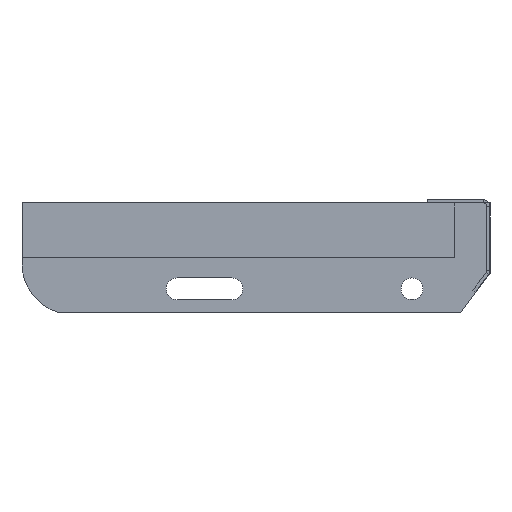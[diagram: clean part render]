
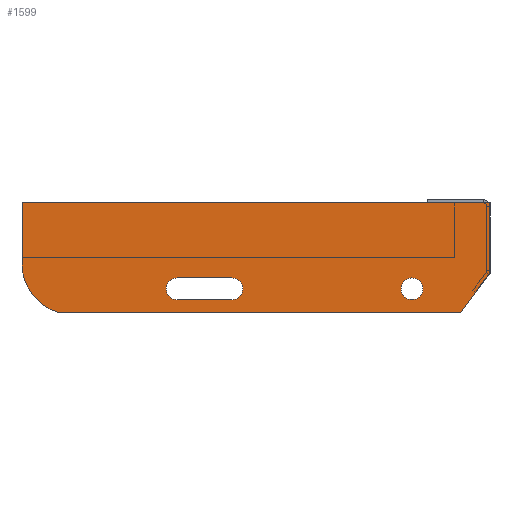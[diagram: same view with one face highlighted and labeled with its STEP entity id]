
A CAD part, left-side view. The second image highlights one B-rep face of the part: STEP entity #1599.
In plain terms, the highlighted planar face has unit normal (-1, 0, 0) as drawn and (0, 0, 1) by its records, which use the part's own axes.
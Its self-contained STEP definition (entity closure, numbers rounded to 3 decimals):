
#3 = CARTESIAN_POINT ( 'NONE',  ( -165.5, -62., 3. ) ) ;
#18 = PLANE ( 'NONE',  #309 ) ;
#52 = ORIENTED_EDGE ( 'NONE', *, *, #1554, .T. ) ;
#60 = FACE_BOUND ( 'NONE', #755, .T. ) ;
#78 = EDGE_CURVE ( 'NONE', #615, #1896, #1427, .T. ) ;
#79 = AXIS2_PLACEMENT_3D ( 'NONE', #2000, #1041, #600 ) ;
#181 = CIRCLE ( 'NONE', #1456, 32.5 ) ;
#185 = AXIS2_PLACEMENT_3D ( 'NONE', #1357, #1516, #250 ) ;
#205 = VERTEX_POINT ( 'NONE', #1966 ) ;
#216 = FACE_BOUND ( 'NONE', #1266, .T. ) ;
#229 = EDGE_CURVE ( 'NONE', #1896, #615, #1358, .T. ) ;
#250 = DIRECTION ( 'NONE',  ( 1., 0., 0. ) ) ;
#257 = ORIENTED_EDGE ( 'NONE', *, *, #1040, .T. ) ;
#277 = VERTEX_POINT ( 'NONE', #773 ) ;
#284 = CARTESIAN_POINT ( 'NONE',  ( -300., -39., 3. ) ) ;
#306 = LINE ( 'NONE', #317, #1688 ) ;
#309 = AXIS2_PLACEMENT_3D ( 'NONE', #517, #1147, #1274 ) ;
#317 = CARTESIAN_POINT ( 'NONE',  ( 0., 0., 3. ) ) ;
#323 = DIRECTION ( 'NONE',  ( 0., 0., 1. ) ) ;
#330 = DIRECTION ( 'NONE',  ( 0.602, 0.799, 0. ) ) ;
#346 = AXIS2_PLACEMENT_3D ( 'NONE', #614, #323, #1577 ) ;
#348 = CIRCLE ( 'NONE', #1300, 7. ) ;
#349 = VECTOR ( 'NONE', #1674, 1000. ) ;
#350 = FACE_OUTER_BOUND ( 'NONE', #1513, .T. ) ;
#404 = EDGE_CURVE ( 'NONE', #924, #503, #641, .T. ) ;
#440 = CARTESIAN_POINT ( 'NONE',  ( -200.5, -55., 3. ) ) ;
#445 = CARTESIAN_POINT ( 'NONE',  ( -200.5, -62., 3. ) ) ;
#466 = EDGE_CURVE ( 'NONE', #503, #277, #651, .T. ) ;
#480 = DIRECTION ( 'NONE',  ( 0., 0., 1. ) ) ;
#503 = VERTEX_POINT ( 'NONE', #1945 ) ;
#511 = LINE ( 'NONE', #1740, #1132 ) ;
#517 = CARTESIAN_POINT ( 'NONE',  ( -267.5, -39., 3. ) ) ;
#581 = ORIENTED_EDGE ( 'NONE', *, *, #466, .F. ) ;
#583 = DIRECTION ( 'NONE',  ( 0., -1., 0. ) ) ;
#600 = DIRECTION ( 'NONE',  ( 1., 0., 0. ) ) ;
#609 = ORIENTED_EDGE ( 'NONE', *, *, #1492, .F. ) ;
#612 = VECTOR ( 'NONE', #1888, 1000. ) ;
#614 = CARTESIAN_POINT ( 'NONE',  ( -165.5, -55., 3. ) ) ;
#615 = VERTEX_POINT ( 'NONE', #1172 ) ;
#641 = CIRCLE ( 'NONE', #346, 7. ) ;
#642 = CARTESIAN_POINT ( 'NONE',  ( -200.5, -48., 3. ) ) ;
#651 = LINE ( 'NONE', #642, #1624 ) ;
#671 = VERTEX_POINT ( 'NONE', #1013 ) ;
#703 = CARTESIAN_POINT ( 'NONE',  ( 0., 0., 3. ) ) ;
#712 = CARTESIAN_POINT ( 'NONE',  ( -300., 0., 3. ) ) ;
#716 = DIRECTION ( 'NONE',  ( 1., 0., 0. ) ) ;
#744 = VERTEX_POINT ( 'NONE', #1333 ) ;
#755 = EDGE_LOOP ( 'NONE', ( #1116, #609, #1482, #581, #948 ) ) ;
#773 = CARTESIAN_POINT ( 'NONE',  ( -200.5, -48., 3. ) ) ;
#824 = VERTEX_POINT ( 'NONE', #445 ) ;
#825 = EDGE_CURVE ( 'NONE', #277, #671, #348, .T. ) ;
#865 = VERTEX_POINT ( 'NONE', #1732 ) ;
#888 = CARTESIAN_POINT ( 'NONE',  ( -200.5, -55., 3. ) ) ;
#924 = VERTEX_POINT ( 'NONE', #3 ) ;
#926 = LINE ( 'NONE', #1561, #1389 ) ;
#936 = DIRECTION ( 'NONE',  ( -1., 0., 0. ) ) ;
#948 = ORIENTED_EDGE ( 'NONE', *, *, #404, .F. ) ;
#968 = VECTOR ( 'NONE', #583, 1000. ) ;
#1004 = EDGE_CURVE ( 'NONE', #824, #924, #1267, .T. ) ;
#1012 = ORIENTED_EDGE ( 'NONE', *, *, #78, .F. ) ;
#1013 = CARTESIAN_POINT ( 'NONE',  ( -207.5, -55., 3. ) ) ;
#1040 = EDGE_CURVE ( 'NONE', #865, #205, #511, .T. ) ;
#1041 = DIRECTION ( 'NONE',  ( 0., 0., 1. ) ) ;
#1045 = CARTESIAN_POINT ( 'NONE',  ( 0., 0., 3. ) ) ;
#1056 = LINE ( 'NONE', #1362, #968 ) ;
#1113 = CARTESIAN_POINT ( 'NONE',  ( -267.5, -39., 3. ) ) ;
#1116 = ORIENTED_EDGE ( 'NONE', *, *, #1004, .F. ) ;
#1132 = VECTOR ( 'NONE', #1761, 1000. ) ;
#1147 = DIRECTION ( 'NONE',  ( 0., 0., 1. ) ) ;
#1156 = DIRECTION ( 'NONE',  ( 1., 0., 0. ) ) ;
#1172 = CARTESIAN_POINT ( 'NONE',  ( -57., -55., 3. ) ) ;
#1241 = VERTEX_POINT ( 'NONE', #703 ) ;
#1242 = CARTESIAN_POINT ( 'NONE',  ( -200.5, -62., 3. ) ) ;
#1266 = EDGE_LOOP ( 'NONE', ( #1012, #1922 ) ) ;
#1267 = LINE ( 'NONE', #1242, #612 ) ;
#1271 = DIRECTION ( 'NONE',  ( -1., 0., 0. ) ) ;
#1274 = DIRECTION ( 'NONE',  ( 1., 0., 0. ) ) ;
#1294 = AXIS2_PLACEMENT_3D ( 'NONE', #440, #480, #1570 ) ;
#1300 = AXIS2_PLACEMENT_3D ( 'NONE', #888, #1644, #716 ) ;
#1332 = ORIENTED_EDGE ( 'NONE', *, *, #1380, .T. ) ;
#1333 = CARTESIAN_POINT ( 'NONE',  ( 0., -45., 3. ) ) ;
#1352 = VERTEX_POINT ( 'NONE', #712 ) ;
#1357 = CARTESIAN_POINT ( 'NONE',  ( -50., -55., 3. ) ) ;
#1358 = CIRCLE ( 'NONE', #79, 7. ) ;
#1362 = CARTESIAN_POINT ( 'NONE',  ( -300., 0., 3. ) ) ;
#1380 = EDGE_CURVE ( 'NONE', #1352, #1948, #1056, .T. ) ;
#1386 = EDGE_CURVE ( 'NONE', #744, #1241, #1821, .T. ) ;
#1389 = VECTOR ( 'NONE', #330, 1000. ) ;
#1408 = ORIENTED_EDGE ( 'NONE', *, *, #1386, .T. ) ;
#1427 = CIRCLE ( 'NONE', #185, 7. ) ;
#1456 = AXIS2_PLACEMENT_3D ( 'NONE', #1113, #1769, #1156 ) ;
#1482 = ORIENTED_EDGE ( 'NONE', *, *, #825, .F. ) ;
#1492 = EDGE_CURVE ( 'NONE', #671, #824, #1908, .T. ) ;
#1513 = EDGE_LOOP ( 'NONE', ( #1408, #52, #1332, #1569, #257, #1866 ) ) ;
#1516 = DIRECTION ( 'NONE',  ( 0., 0., 1. ) ) ;
#1554 = EDGE_CURVE ( 'NONE', #1241, #1352, #306, .T. ) ;
#1556 = EDGE_CURVE ( 'NONE', #205, #744, #926, .T. ) ;
#1561 = CARTESIAN_POINT ( 'NONE',  ( 0., -45., 3. ) ) ;
#1569 = ORIENTED_EDGE ( 'NONE', *, *, #1596, .T. ) ;
#1570 = DIRECTION ( 'NONE',  ( 1., 0., 0. ) ) ;
#1577 = DIRECTION ( 'NONE',  ( 1., 0., 0. ) ) ;
#1596 = EDGE_CURVE ( 'NONE', #1948, #865, #181, .T. ) ;
#1599 = ADVANCED_FACE ( 'NONE', ( #350, #216, #60 ), #18, .T. ) ;
#1624 = VECTOR ( 'NONE', #1271, 1000. ) ;
#1644 = DIRECTION ( 'NONE',  ( 0., 0., 1. ) ) ;
#1663 = CARTESIAN_POINT ( 'NONE',  ( -43., -55., 3. ) ) ;
#1674 = DIRECTION ( 'NONE',  ( 0., 1., 0. ) ) ;
#1688 = VECTOR ( 'NONE', #936, 1000. ) ;
#1732 = CARTESIAN_POINT ( 'NONE',  ( -277.26, -70., 3. ) ) ;
#1740 = CARTESIAN_POINT ( 'NONE',  ( -18.839, -70., 3. ) ) ;
#1761 = DIRECTION ( 'NONE',  ( 1., 0., 0. ) ) ;
#1769 = DIRECTION ( 'NONE',  ( 0., 0., 1. ) ) ;
#1821 = LINE ( 'NONE', #1045, #349 ) ;
#1866 = ORIENTED_EDGE ( 'NONE', *, *, #1556, .T. ) ;
#1888 = DIRECTION ( 'NONE',  ( 1., 0., 0. ) ) ;
#1896 = VERTEX_POINT ( 'NONE', #1663 ) ;
#1908 = CIRCLE ( 'NONE', #1294, 7. ) ;
#1922 = ORIENTED_EDGE ( 'NONE', *, *, #229, .F. ) ;
#1945 = CARTESIAN_POINT ( 'NONE',  ( -165.5, -48., 3. ) ) ;
#1948 = VERTEX_POINT ( 'NONE', #284 ) ;
#1966 = CARTESIAN_POINT ( 'NONE',  ( -18.839, -70., 3. ) ) ;
#2000 = CARTESIAN_POINT ( 'NONE',  ( -50., -55., 3. ) ) ;
